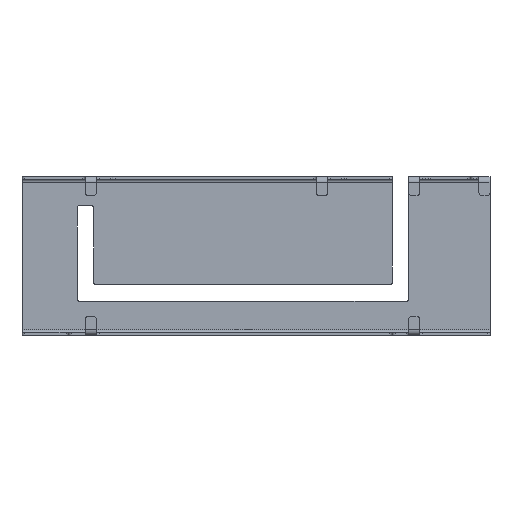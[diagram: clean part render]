
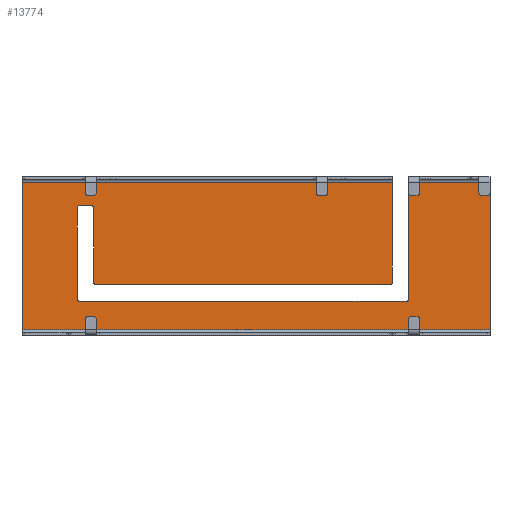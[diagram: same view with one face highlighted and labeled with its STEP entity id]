
A CAD part, front view. The second image highlights one B-rep face of the part: STEP entity #13774.
In plain terms, the highlighted planar face has unit normal (0, -1, 0).
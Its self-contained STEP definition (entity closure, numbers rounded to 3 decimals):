
#684 = FACE_OUTER_BOUND ( 'NONE', #1547, .T. ) ;
#1547 = EDGE_LOOP ( 'NONE', ( #7545, #7657, #7662, #8223, #8222, #7552, #7223, #8224, #8225, #8122, #8121, #7557, #7638, #7383, #7600, #7492, #8061, #7529 ) ) ;
#2008 = VECTOR ( 'NONE', #2937, 1000. ) ;
#2009 = LINE ( 'NONE', #2938, #2008 ) ;
#2011 = VECTOR ( 'NONE', #2936, 1000. ) ;
#2012 = CIRCLE ( 'NONE', #10496, 0.2 ) ;
#2013 = LINE ( 'NONE', #2830, #2011 ) ;
#2017 = CIRCLE ( 'NONE', #10494, 0.2 ) ;
#2018 = LINE ( 'NONE', #2943, #2027 ) ;
#2019 = LINE ( 'NONE', #2935, #2021 ) ;
#2020 = CIRCLE ( 'NONE', #10506, 0.2 ) ;
#2021 = VECTOR ( 'NONE', #2934, 1000. ) ;
#2022 = VECTOR ( 'NONE', #2944, 1000. ) ;
#2023 = LINE ( 'NONE', #2963, #2022 ) ;
#2024 = CIRCLE ( 'NONE', #10497, 0.2 ) ;
#2027 = VECTOR ( 'NONE', #2834, 1000. ) ;
#2029 = LINE ( 'NONE', #2948, #2031 ) ;
#2030 = CIRCLE ( 'NONE', #10503, 0.2 ) ;
#2031 = VECTOR ( 'NONE', #2960, 1000. ) ;
#2032 = LINE ( 'NONE', #2961, #2045 ) ;
#2033 = VECTOR ( 'NONE', #2947, 1000. ) ;
#2034 = VECTOR ( 'NONE', #2945, 1000. ) ;
#2035 = LINE ( 'NONE', #2969, #2034 ) ;
#2036 = VECTOR ( 'NONE', #2967, 1000. ) ;
#2037 = LINE ( 'NONE', #2965, #2036 ) ;
#2043 = LINE ( 'NONE', #3001, #2047 ) ;
#2044 = CIRCLE ( 'NONE', #10500, 0.2 ) ;
#2045 = VECTOR ( 'NONE', #2962, 1000. ) ;
#2046 = LINE ( 'NONE', #2972, #2033 ) ;
#2047 = VECTOR ( 'NONE', #2974, 1000. ) ;
#2050 = VECTOR ( 'NONE', #3004, 1000. ) ;
#2063 = LINE ( 'NONE', #3007, #2050 ) ;
#2260 = EDGE_CURVE ( 'NONE', #8803, #8802, #2063, .T. ) ;
#2262 = EDGE_CURVE ( 'NONE', #8800, #8801, #2044, .T. ) ;
#2265 = EDGE_CURVE ( 'NONE', #8692, #8800, #2043, .T. ) ;
#2268 = EDGE_CURVE ( 'NONE', #8803, #8805, #2037, .T. ) ;
#2269 = EDGE_CURVE ( 'NONE', #8805, #8804, #2035, .T. ) ;
#2270 = EDGE_CURVE ( 'NONE', #8801, #8802, #2046, .T. ) ;
#2271 = EDGE_CURVE ( 'NONE', #8691, #8692, #2030, .T. ) ;
#2273 = EDGE_CURVE ( 'NONE', #8690, #8691, #2029, .T. ) ;
#2274 = EDGE_CURVE ( 'NONE', #8689, #8690, #2024, .T. ) ;
#2275 = EDGE_CURVE ( 'NONE', #8686, #8687, #2032, .T. ) ;
#2276 = EDGE_CURVE ( 'NONE', #8688, #8689, #2023, .T. ) ;
#2277 = EDGE_CURVE ( 'NONE', #8687, #8688, #2020, .T. ) ;
#2279 = EDGE_CURVE ( 'NONE', #8685, #8686, #2017, .T. ) ;
#2280 = EDGE_CURVE ( 'NONE', #8684, #8685, #2018, .T. ) ;
#2282 = EDGE_CURVE ( 'NONE', #8683, #8684, #2012, .T. ) ;
#2283 = EDGE_CURVE ( 'NONE', #8682, #8683, #2019, .T. ) ;
#2284 = EDGE_CURVE ( 'NONE', #8682, #8681, #2013, .T. ) ;
#2285 = EDGE_CURVE ( 'NONE', #8804, #8681, #2009, .T. ) ;
#2830 = CARTESIAN_POINT ( 'NONE',  ( 27.9, 1.764, -0.2 ) ) ;
#2831 = DIRECTION ( 'NONE',  ( 0., 1., 0. ) ) ;
#2832 = DIRECTION ( 'NONE',  ( -1., 0., 0. ) ) ;
#2833 = CARTESIAN_POINT ( 'NONE',  ( 26.7, 1.764, -7.464 ) ) ;
#2834 = DIRECTION ( 'NONE',  ( -1., 0., 0. ) ) ;
#2837 = DIRECTION ( 'NONE',  ( 0., 1., 0. ) ) ;
#2838 = DIRECTION ( 'NONE',  ( -1., 0., 0. ) ) ;
#2934 = DIRECTION ( 'NONE',  ( 0., 0., -1. ) ) ;
#2935 = CARTESIAN_POINT ( 'NONE',  ( 26.9, 1.764, -7.464 ) ) ;
#2936 = DIRECTION ( 'NONE',  ( -1., 0., 0. ) ) ;
#2937 = DIRECTION ( 'NONE',  ( 0., 0., 1. ) ) ;
#2938 = CARTESIAN_POINT ( 'NONE',  ( 0., 1.764, 2.272 ) ) ;
#2941 = DIRECTION ( 'NONE',  ( -1., 0., 0. ) ) ;
#2942 = DIRECTION ( 'NONE',  ( 0., -1., 0. ) ) ;
#2943 = CARTESIAN_POINT ( 'NONE',  ( 26.7, 1.764, -7.664 ) ) ;
#2944 = DIRECTION ( 'NONE',  ( -1., 0., 0. ) ) ;
#2945 = DIRECTION ( 'NONE',  ( -1., 0., 0. ) ) ;
#2946 = CARTESIAN_POINT ( 'NONE',  ( 4.2, 1.764, -8.664 ) ) ;
#2947 = DIRECTION ( 'NONE',  ( 0., 0., 1. ) ) ;
#2948 = CARTESIAN_POINT ( 'NONE',  ( 4., 1.764, -8.488 ) ) ;
#2949 = DIRECTION ( 'NONE',  ( 0., -1., 0. ) ) ;
#2950 = DIRECTION ( 'NONE',  ( -1., 0., 0. ) ) ;
#2955 = CARTESIAN_POINT ( 'NONE',  ( 5., 1.764, -2.064 ) ) ;
#2956 = CARTESIAN_POINT ( 'NONE',  ( 4.2, 1.764, -2.064 ) ) ;
#2957 = CARTESIAN_POINT ( 'NONE',  ( 5.4, 1.764, -7.464 ) ) ;
#2958 = DIRECTION ( 'NONE',  ( 0., -1., 0. ) ) ;
#2959 = DIRECTION ( 'NONE',  ( 1., 0., 0. ) ) ;
#2960 = DIRECTION ( 'NONE',  ( 0., 0., -1. ) ) ;
#2961 = CARTESIAN_POINT ( 'NONE',  ( 5.2, 1.764, -7.464 ) ) ;
#2962 = DIRECTION ( 'NONE',  ( 0., 0., 1. ) ) ;
#2963 = CARTESIAN_POINT ( 'NONE',  ( 4.2, 1.764, -1.864 ) ) ;
#2965 = CARTESIAN_POINT ( 'NONE',  ( 34., 1.764, -12.964 ) ) ;
#2967 = DIRECTION ( 'NONE',  ( 0., 0., -1. ) ) ;
#2969 = CARTESIAN_POINT ( 'NONE',  ( 27.9, 1.764, -10.929 ) ) ;
#2972 = CARTESIAN_POINT ( 'NONE',  ( 28.1, 1.764, -8.664 ) ) ;
#2974 = DIRECTION ( 'NONE',  ( 1., 0., 0. ) ) ;
#2978 = DIRECTION ( 'NONE',  ( 1., 0., 0. ) ) ;
#2979 = DIRECTION ( 'NONE',  ( 0., -1., 0. ) ) ;
#3001 = CARTESIAN_POINT ( 'NONE',  ( 4.2, 1.764, -8.864 ) ) ;
#3004 = DIRECTION ( 'NONE',  ( -1., 0., 0. ) ) ;
#3005 = CARTESIAN_POINT ( 'NONE',  ( 27.9, 1.764, -8.664 ) ) ;
#3007 = CARTESIAN_POINT ( 'NONE',  ( 27.9, 1.764, -0.2 ) ) ;
#7223 = ORIENTED_EDGE ( 'NONE', *, *, #2271, .F. ) ;
#7383 = ORIENTED_EDGE ( 'NONE', *, *, #2280, .F. ) ;
#7492 = ORIENTED_EDGE ( 'NONE', *, *, #2283, .F. ) ;
#7529 = ORIENTED_EDGE ( 'NONE', *, *, #2285, .F. ) ;
#7545 = ORIENTED_EDGE ( 'NONE', *, *, #2269, .F. ) ;
#7552 = ORIENTED_EDGE ( 'NONE', *, *, #2265, .F. ) ;
#7557 = ORIENTED_EDGE ( 'NONE', *, *, #2275, .F. ) ;
#7600 = ORIENTED_EDGE ( 'NONE', *, *, #2282, .F. ) ;
#7638 = ORIENTED_EDGE ( 'NONE', *, *, #2279, .F. ) ;
#7657 = ORIENTED_EDGE ( 'NONE', *, *, #2268, .F. ) ;
#7662 = ORIENTED_EDGE ( 'NONE', *, *, #2260, .T. ) ;
#8061 = ORIENTED_EDGE ( 'NONE', *, *, #2284, .T. ) ;
#8121 = ORIENTED_EDGE ( 'NONE', *, *, #2277, .F. ) ;
#8122 = ORIENTED_EDGE ( 'NONE', *, *, #2276, .F. ) ;
#8222 = ORIENTED_EDGE ( 'NONE', *, *, #2262, .F. ) ;
#8223 = ORIENTED_EDGE ( 'NONE', *, *, #2270, .F. ) ;
#8224 = ORIENTED_EDGE ( 'NONE', *, *, #2273, .F. ) ;
#8225 = ORIENTED_EDGE ( 'NONE', *, *, #2274, .F. ) ;
#8681 = VERTEX_POINT ( 'NONE', #19015 ) ;
#8682 = VERTEX_POINT ( 'NONE', #19002 ) ;
#8683 = VERTEX_POINT ( 'NONE', #18994 ) ;
#8684 = VERTEX_POINT ( 'NONE', #18975 ) ;
#8685 = VERTEX_POINT ( 'NONE', #18906 ) ;
#8686 = VERTEX_POINT ( 'NONE', #18890 ) ;
#8687 = VERTEX_POINT ( 'NONE', #18881 ) ;
#8688 = VERTEX_POINT ( 'NONE', #18851 ) ;
#8689 = VERTEX_POINT ( 'NONE', #18833 ) ;
#8690 = VERTEX_POINT ( 'NONE', #18809 ) ;
#8691 = VERTEX_POINT ( 'NONE', #18813 ) ;
#8692 = VERTEX_POINT ( 'NONE', #18724 ) ;
#8800 = VERTEX_POINT ( 'NONE', #19053 ) ;
#8801 = VERTEX_POINT ( 'NONE', #19092 ) ;
#8802 = VERTEX_POINT ( 'NONE', #19065 ) ;
#8803 = VERTEX_POINT ( 'NONE', #19122 ) ;
#8804 = VERTEX_POINT ( 'NONE', #19090 ) ;
#8805 = VERTEX_POINT ( 'NONE', #19136 ) ;
#9208 = DIRECTION ( 'NONE',  ( 1., 0., 0. ) ) ;
#9209 = DIRECTION ( 'NONE',  ( 0., 1., 0. ) ) ;
#9217 = PLANE ( 'NONE',  #17759 ) ;
#9223 = CARTESIAN_POINT ( 'NONE',  ( 27.9, 1.764, -8.664 ) ) ;
#10494 = AXIS2_PLACEMENT_3D ( 'NONE', #2957, #2831, #2832 ) ;
#10496 = AXIS2_PLACEMENT_3D ( 'NONE', #2833, #2837, #2838 ) ;
#10497 = AXIS2_PLACEMENT_3D ( 'NONE', #2956, #2958, #2959 ) ;
#10500 = AXIS2_PLACEMENT_3D ( 'NONE', #3005, #2979, #2978 ) ;
#10503 = AXIS2_PLACEMENT_3D ( 'NONE', #2946, #2949, #2950 ) ;
#10506 = AXIS2_PLACEMENT_3D ( 'NONE', #2955, #2942, #2941 ) ;
#13774 = ADVANCED_FACE ( 'NONE', ( #684 ), #9217, .F. ) ;
#17759 = AXIS2_PLACEMENT_3D ( 'NONE', #9223, #9209, #9208 ) ;
#18724 = CARTESIAN_POINT ( 'NONE',  ( 4.2, 1.764, -8.864 ) ) ;
#18809 = CARTESIAN_POINT ( 'NONE',  ( 4., 1.764, -2.064 ) ) ;
#18813 = CARTESIAN_POINT ( 'NONE',  ( 4., 1.764, -8.664 ) ) ;
#18833 = CARTESIAN_POINT ( 'NONE',  ( 4.2, 1.764, -1.864 ) ) ;
#18851 = CARTESIAN_POINT ( 'NONE',  ( 5., 1.764, -1.864 ) ) ;
#18881 = CARTESIAN_POINT ( 'NONE',  ( 5.2, 1.764, -2.064 ) ) ;
#18890 = CARTESIAN_POINT ( 'NONE',  ( 5.2, 1.764, -7.464 ) ) ;
#18906 = CARTESIAN_POINT ( 'NONE',  ( 5.4, 1.764, -7.664 ) ) ;
#18975 = CARTESIAN_POINT ( 'NONE',  ( 26.7, 1.764, -7.664 ) ) ;
#18994 = CARTESIAN_POINT ( 'NONE',  ( 26.9, 1.764, -7.464 ) ) ;
#19002 = CARTESIAN_POINT ( 'NONE',  ( 26.9, 1.764, -0.2 ) ) ;
#19015 = CARTESIAN_POINT ( 'NONE',  ( 0., 1.764, -0.2 ) ) ;
#19053 = CARTESIAN_POINT ( 'NONE',  ( 27.9, 1.764, -8.864 ) ) ;
#19065 = CARTESIAN_POINT ( 'NONE',  ( 28.1, 1.764, -0.2 ) ) ;
#19090 = CARTESIAN_POINT ( 'NONE',  ( 0., 1.764, -10.929 ) ) ;
#19092 = CARTESIAN_POINT ( 'NONE',  ( 28.1, 1.764, -8.664 ) ) ;
#19122 = CARTESIAN_POINT ( 'NONE',  ( 34., 1.764, -0.2 ) ) ;
#19136 = CARTESIAN_POINT ( 'NONE',  ( 34., 1.764, -10.929 ) ) ;
